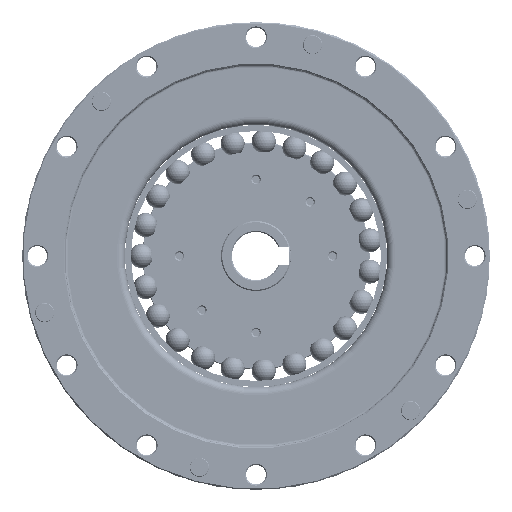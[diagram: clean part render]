
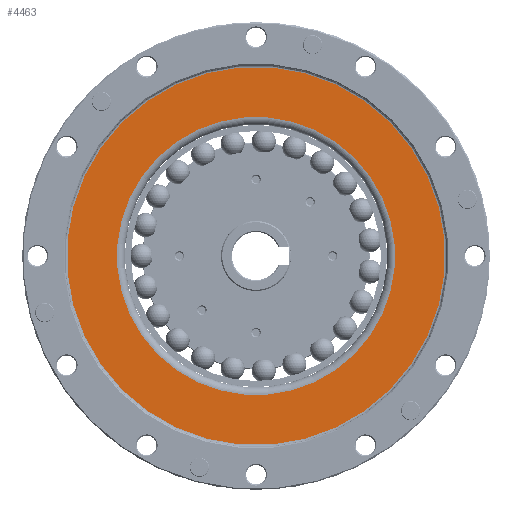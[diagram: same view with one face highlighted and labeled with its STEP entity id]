
A CAD part, left-side view. The second image highlights one B-rep face of the part: STEP entity #4463.
In plain terms, the highlighted planar face has unit normal (-1, 0, 0) as drawn and (0, -1, 0) by its records, which use the part's own axes.
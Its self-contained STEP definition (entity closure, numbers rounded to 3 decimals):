
#4463=ADVANCED_FACE('',(#5478,#5479),#4820,.T.);
#4820=PLANE('',#13833);
#5478=FACE_BOUND('',#6627,.T.);
#5479=FACE_BOUND('',#6628,.T.);
#6627=EDGE_LOOP('',(#9109));
#6628=EDGE_LOOP('',(#9110));
#9109=ORIENTED_EDGE('',*,*,#12086,.T.);
#9110=ORIENTED_EDGE('',*,*,#12085,.F.);
#10703=VERTEX_POINT('',#128008);
#10704=VERTEX_POINT('',#128011);
#12085=EDGE_CURVE('',#10703,#10703,#12856,.T.);
#12086=EDGE_CURVE('',#10704,#10704,#12857,.T.);
#12856=CIRCLE('',#13830,63.6);
#12857=CIRCLE('',#13832,86.51);
#13830=AXIS2_PLACEMENT_3D('',#128007,#16082,#16083);
#13832=AXIS2_PLACEMENT_3D('',#128010,#16086,#16087);
#13833=AXIS2_PLACEMENT_3D('',#128012,#16088,#16089);
#16082=DIRECTION('',(0.,-1.,0.));
#16083=DIRECTION('',(0.,0.,-1.));
#16086=DIRECTION('',(0.,-1.,0.));
#16087=DIRECTION('',(0.,0.,-1.));
#16088=DIRECTION('',(0.,-1.,0.));
#16089=DIRECTION('',(0.,0.,-1.));
#128007=CARTESIAN_POINT('',(0.,-57.9,0.));
#128008=CARTESIAN_POINT('',(0.,-57.9,-63.6));
#128010=CARTESIAN_POINT('',(0.,-57.9,0.));
#128011=CARTESIAN_POINT('',(0.,-57.9,-86.51));
#128012=CARTESIAN_POINT('',(63.6,-57.9,0.));
